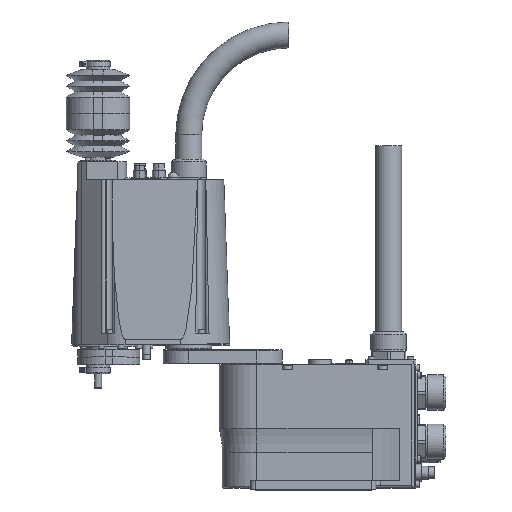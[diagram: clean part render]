
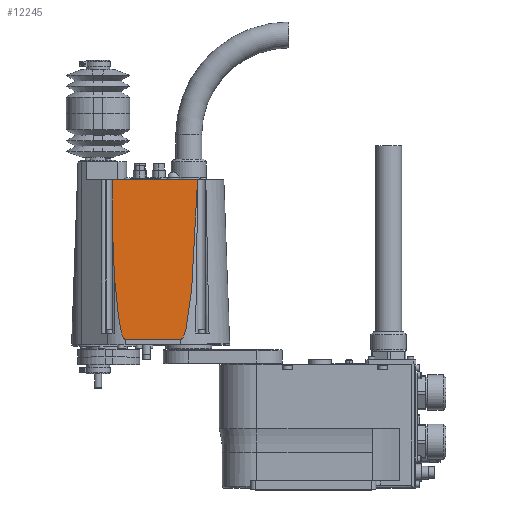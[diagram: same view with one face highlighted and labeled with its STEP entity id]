
A CAD part, top view. The second image highlights one B-rep face of the part: STEP entity #12245.
In plain terms, the highlighted planar face has unit normal (0, 0.035, 0.999).
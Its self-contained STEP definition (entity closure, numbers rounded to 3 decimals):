
#8941 = EDGE_CURVE( '', #16459, #22811, #26192, .T. );
#11157 = VERTEX_POINT( '', #28670 );
#12245 = ADVANCED_FACE( '', ( #29879 ), #29880, .F. );
#14071 = EDGE_CURVE( '', #16459, #14767, #31900, .T. );
#14767 = VERTEX_POINT( '', #32695 );
#16459 = VERTEX_POINT( '', #34588 );
#19623 = EDGE_CURVE( '', #23207, #23615, #38142, .T. );
#20549 = EDGE_CURVE( '', #11157, #23615, #39176, .T. );
#22811 = VERTEX_POINT( '', #41715 );
#23207 = VERTEX_POINT( '', #42181 );
#23357 = EDGE_CURVE( '', #14767, #23207, #42350, .T. );
#23615 = VERTEX_POINT( '', #42630 );
#24451 = EDGE_CURVE( '', #22811, #11157, #43568, .T. );
#26192 = ELLIPSE( '', #45607, 1548.243, 54. );
#28670 = CARTESIAN_POINT( '', ( -145.1, 163.5, 54. ) );
#29879 = FACE_OUTER_BOUND( '', #50661, .T. );
#29880 = PLANE( '', #50662 );
#31900 = LINE( '', #53452, #53453 );
#32695 = CARTESIAN_POINT( '', ( -158.931, 339.3, 47.861 ) );
#34588 = CARTESIAN_POINT( '', ( -65.327, 339.3, 47.861 ) );
#38142 = LINE( '', #61963, #61964 );
#39176 = ELLIPSE( '', #63407, 859.611, 30. );
#41715 = CARTESIAN_POINT( '', ( -84.21, 163.5, 54. ) );
#42181 = CARTESIAN_POINT( '', ( -157.1, 241.074, 51.291 ) );
#42350 = ELLIPSE( '', #67761, 85.961, 3. );
#42630 = CARTESIAN_POINT( '', ( -157.1, 235.221, 51.495 ) );
#43568 = LINE( '', #69481, #69482 );
#45607 = AXIS2_PLACEMENT_3D( '', #72022, #72023, #72024 );
#50661 = EDGE_LOOP( '', ( #76213, #76214, #76215, #76216, #76217, #76218 ) );
#50662 = AXIS2_PLACEMENT_3D( '', #76219, #76220, #76221 );
#53452 = CARTESIAN_POINT( '', ( -70.6, 339.3, 47.861 ) );
#53453 = VECTOR( '', #78426, 1. );
#61963 = CARTESIAN_POINT( '', ( -157.1, 164.043, 53.981 ) );
#61964 = VECTOR( '', #85841, 1. );
#63407 = AXIS2_PLACEMENT_3D( '', #87033, #87034, #87035 );
#67761 = AXIS2_PLACEMENT_3D( '', #90809, #90810, #90811 );
#69481 = CARTESIAN_POINT( '', ( -25.1, 163.5, 54. ) );
#69482 = VECTOR( '', #92194, 1. );
#72022 = CARTESIAN_POINT( '', ( -138.21, 1709.858, 0. ) );
#72023 = DIRECTION( '', ( 0., -0.035, -0.999 ) );
#72024 = DIRECTION( '', ( 0.035, -0.999, 0.035 ) );
#76213 = ORIENTED_EDGE( '', *, *, #23357, .T. );
#76214 = ORIENTED_EDGE( '', *, *, #19623, .T. );
#76215 = ORIENTED_EDGE( '', *, *, #20549, .F. );
#76216 = ORIENTED_EDGE( '', *, *, #24451, .F. );
#76217 = ORIENTED_EDGE( '', *, *, #8941, .F. );
#76218 = ORIENTED_EDGE( '', *, *, #14071, .T. );
#76219 = CARTESIAN_POINT( '', ( 33.8, 157.5, 54.21 ) );
#76220 = DIRECTION( '', ( 0., -0.035, -0.999 ) );
#76221 = DIRECTION( '', ( 0., -0.999, 0.035 ) );
#78426 = DIRECTION( '', ( -1., 0., 0. ) );
#85841 = DIRECTION( '', ( 0., -0.999, 0.035 ) );
#87033 = CARTESIAN_POINT( '', ( -145.1, 1022.588, 24. ) );
#87034 = DIRECTION( '', ( 0., -0.035, -0.999 ) );
#87035 = DIRECTION( '', ( 0., -0.999, 0.035 ) );
#90809 = CARTESIAN_POINT( '', ( -156., 320.999, 48.5 ) );
#90810 = DIRECTION( '', ( 0., 0.035, 0.999 ) );
#90811 = DIRECTION( '', ( 0., -0.999, 0.035 ) );
#92194 = DIRECTION( '', ( -1., 0., 0. ) );
